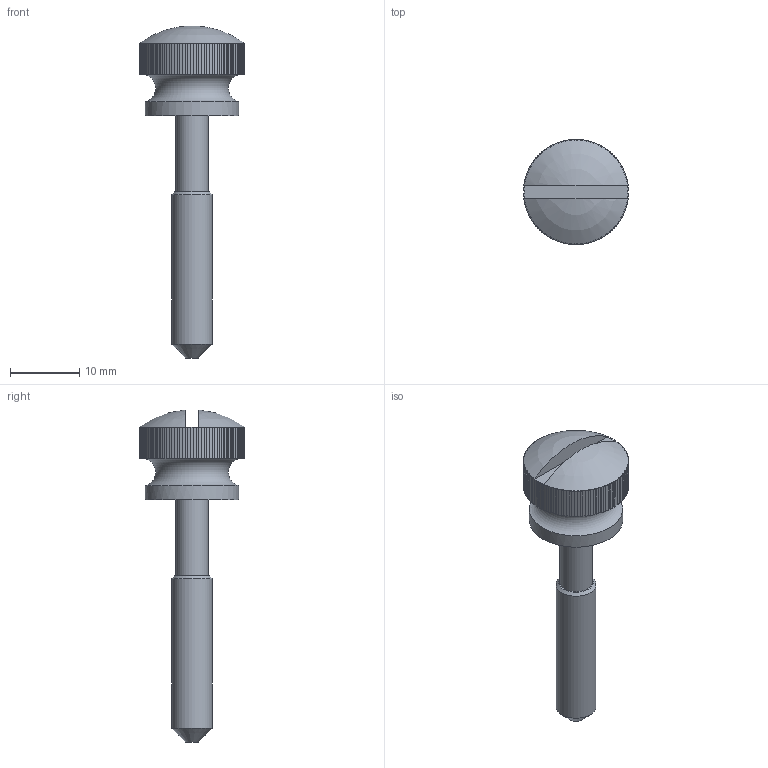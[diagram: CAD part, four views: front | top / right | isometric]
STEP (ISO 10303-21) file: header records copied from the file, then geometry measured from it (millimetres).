
FILE_DESCRIPTION(/* description */ (''),/* implementation_level */ '2;1');
FILE_NAME(/* name */ '\\SYNOLOGYNAS\web\db2\K-HSH15-M5_M\도면\M6\K-HSH15-M6-35.stp',/* time_stamp */ '2024-10-14T14:11:41+09:00',/* author */ ('user'),/* organization */ (''),/* preprocessor_version */ 'ST-DEVELOPER v15.6',/* originating_system */ 'Autodesk Inventor 2015',/* authorisation */ '');
FILE_SCHEMA (('AUTOMOTIVE_DESIGN { 1 0 10303 214 3 1 1 }'));
Length unit declared in the file: millimetre
Products named in the file (1): K-HSH15-M6-35
Bounding box: 15.19 x 15.2 x 47.96 mm (x, y, z)
Volume: 2475.5 mm3; surface area: 1562.9 mm2
Topology: 1 solids, 1 shells, 308 faces, 798 edges, 494 vertices
Faces by surface type: plane 240, cylinder 63, cone 2, sphere 2, torus 1
Full cylindrical faces by diameter (mm): 4.7 x1, 5.8 x1, 13.5 x1
Entity records: 9514 total; most frequent: CARTESIAN_POINT 2251, ORIENTED_EDGE 1580, DIRECTION 1416, EDGE_CURVE 790, AXIS2_PLACEMENT_3D 497, VERTEX_POINT 492, LINE 422, VECTOR 422
